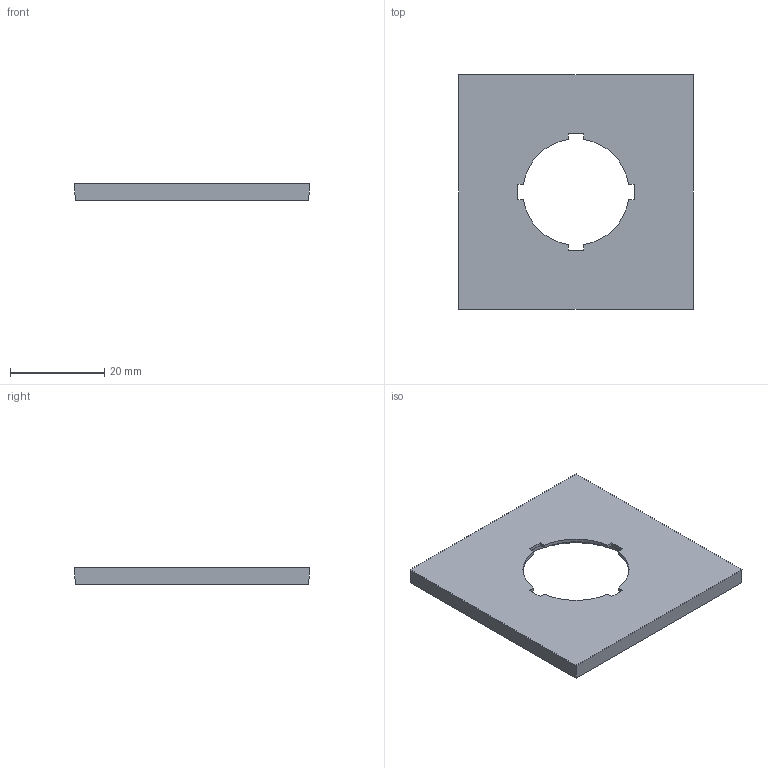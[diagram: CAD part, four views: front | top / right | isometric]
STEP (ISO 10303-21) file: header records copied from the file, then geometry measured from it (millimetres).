
FILE_DESCRIPTION( ( '' ), '1' );
FILE_NAME( '//expscmdclustefs.cadenas.external/client_exchange/iodir/jobs/output/wkb45967597_no0/STEP/279433_2_03.stp', '2012-06-14T13:27:15', ( '' ), ( '' ), ' ', ' ', ' ' );
FILE_SCHEMA( ( 'CONFIG_CONTROL_DESIGN' ) );
Length unit declared in the file: millimetre
Products named in the file (1): 1
Bounding box: 49.8 x 49.8 x 3.4 mm (x, y, z)
Volume: 5064.1 mm3; surface area: 5332.1 mm2
Topology: 1 solids, 1 shells, 36 faces, 90 edges, 60 vertices
Faces by surface type: plane 26, cylinder 10
Entity records: 1122 total; most frequent: CARTESIAN_POINT 187, DIRECTION 184, ORIENTED_EDGE 180, EDGE_CURVE 90, LINE 70, VECTOR 70, VERTEX_POINT 60, AXIS2_PLACEMENT_3D 57
